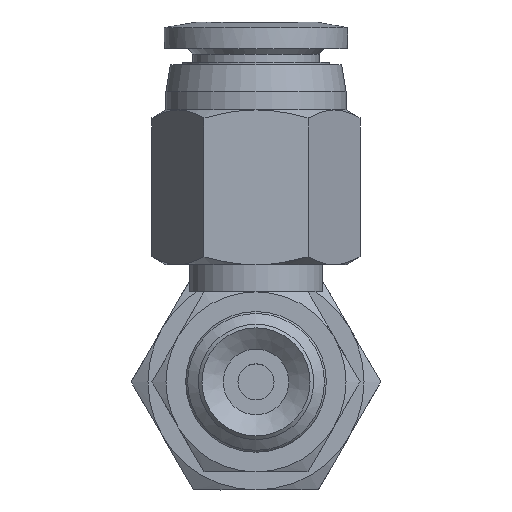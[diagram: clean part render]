
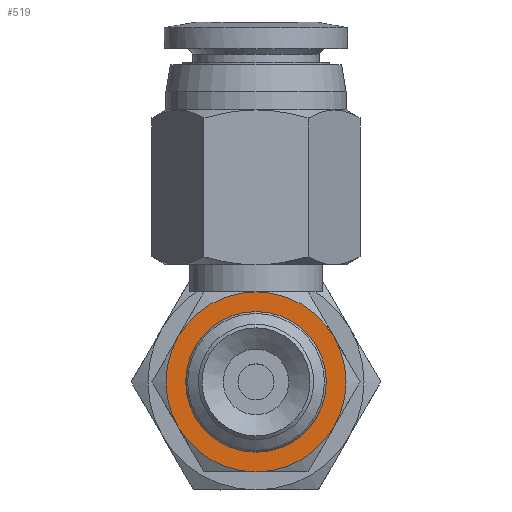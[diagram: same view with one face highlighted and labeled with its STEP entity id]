
A CAD part, front view. The second image highlights one B-rep face of the part: STEP entity #519.
In plain terms, the highlighted planar face has unit normal (0, -1, 0).
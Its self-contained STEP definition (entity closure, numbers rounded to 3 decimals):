
#519=ADVANCED_FACE('',(#774,#775),#776,.T.);
#774=FACE_BOUND('',#1191,.T.);
#775=FACE_OUTER_BOUND('',#1192,.T.);
#776=PLANE('',#1193);
#1191=EDGE_LOOP('',(#2115));
#1192=EDGE_LOOP('',(#2116,#2117,#2118,#2119,#2120,#2121));
#1193=AXIS2_PLACEMENT_3D('',#2122,#2123,#2124);
#2115=ORIENTED_EDGE('',*,*,#2903,.F.);
#2116=ORIENTED_EDGE('',*,*,#2902,.T.);
#2117=ORIENTED_EDGE('',*,*,#2904,.T.);
#2118=ORIENTED_EDGE('',*,*,#2905,.T.);
#2119=ORIENTED_EDGE('',*,*,#2858,.T.);
#2120=ORIENTED_EDGE('',*,*,#2888,.T.);
#2121=ORIENTED_EDGE('',*,*,#2871,.T.);
#2122=CARTESIAN_POINT('',(2.0,0.,0.0));
#2123=DIRECTION('',(0.0,-1.0,0.0));
#2124=DIRECTION('',(0.0,0.0,-1.0));
#2858=EDGE_CURVE('',#3222,#3214,#3224,.T.);
#2871=EDGE_CURVE('',#3248,#3245,#3249,.T.);
#2888=EDGE_CURVE('',#3214,#3248,#3276,.T.);
#2902=EDGE_CURVE('',#3245,#3301,#3303,.T.);
#2903=EDGE_CURVE('',#3304,#3304,#3305,.T.);
#2904=EDGE_CURVE('',#3301,#3306,#3307,.T.);
#2905=EDGE_CURVE('',#3306,#3222,#3308,.T.);
#3214=VERTEX_POINT('',#4006);
#3222=VERTEX_POINT('',#4022);
#3224=CIRCLE('',#4026,5.0);
#3245=VERTEX_POINT('',#4058);
#3248=VERTEX_POINT('',#4063);
#3249=CIRCLE('',#4064,5.0);
#3276=CIRCLE('',#4109,5.0);
#3301=VERTEX_POINT('',#4152);
#3303=CIRCLE('',#4156,5.0);
#3304=VERTEX_POINT('',#4157);
#3305=CIRCLE('',#4158,2.0);
#3306=VERTEX_POINT('',#4159);
#3307=CIRCLE('',#4160,5.0);
#3308=CIRCLE('',#4161,5.0);
#4006=CARTESIAN_POINT('',(-4.33,0.,2.5));
#4022=CARTESIAN_POINT('',(0.0,0.,5.0));
#4026=AXIS2_PLACEMENT_3D('',#4931,#4932,#4933);
#4058=CARTESIAN_POINT('',(0.0,0.,-5.0));
#4063=CARTESIAN_POINT('',(-4.33,0.,-2.5));
#4064=AXIS2_PLACEMENT_3D('',#4950,#4951,#4952);
#4109=AXIS2_PLACEMENT_3D('',#4970,#4971,#4972);
#4152=CARTESIAN_POINT('',(4.33,0.,-2.5));
#4156=AXIS2_PLACEMENT_3D('',#4995,#4996,#4997);
#4157=CARTESIAN_POINT('',(0.0,0.,-2.0));
#4158=AXIS2_PLACEMENT_3D('',#4998,#4999,#5000);
#4159=CARTESIAN_POINT('',(4.33,0.,2.5));
#4160=AXIS2_PLACEMENT_3D('',#5001,#5002,#5003);
#4161=AXIS2_PLACEMENT_3D('',#5004,#5005,#5006);
#4931=CARTESIAN_POINT('',(0.0,0.,0.0));
#4932=DIRECTION('',(0.0,-1.0,0.0));
#4933=DIRECTION('',(0.0,0.0,-1.0));
#4950=CARTESIAN_POINT('',(0.0,0.,0.0));
#4951=DIRECTION('',(0.0,-1.0,0.0));
#4952=DIRECTION('',(0.0,0.0,-1.0));
#4970=CARTESIAN_POINT('',(0.0,0.,0.0));
#4971=DIRECTION('',(0.0,-1.0,0.0));
#4972=DIRECTION('',(0.0,0.0,-1.0));
#4995=CARTESIAN_POINT('',(0.0,0.,0.0));
#4996=DIRECTION('',(0.0,-1.0,0.0));
#4997=DIRECTION('',(0.0,0.0,-1.0));
#4998=CARTESIAN_POINT('',(0.0,0.,0.0));
#4999=DIRECTION('',(0.0,-1.0,0.0));
#5000=DIRECTION('',(0.0,0.0,-1.0));
#5001=CARTESIAN_POINT('',(0.0,0.,0.0));
#5002=DIRECTION('',(0.0,-1.0,0.0));
#5003=DIRECTION('',(0.0,0.0,-1.0));
#5004=CARTESIAN_POINT('',(0.0,0.,0.0));
#5005=DIRECTION('',(0.0,-1.0,0.0));
#5006=DIRECTION('',(0.0,0.0,-1.0));
